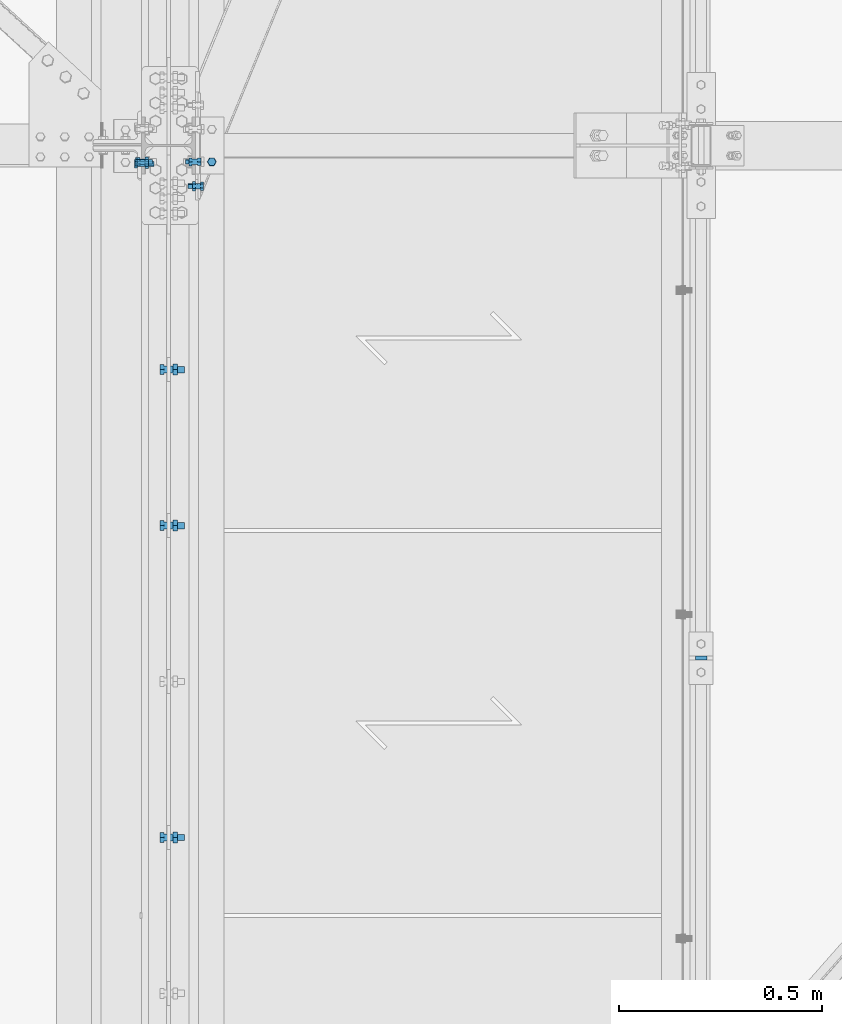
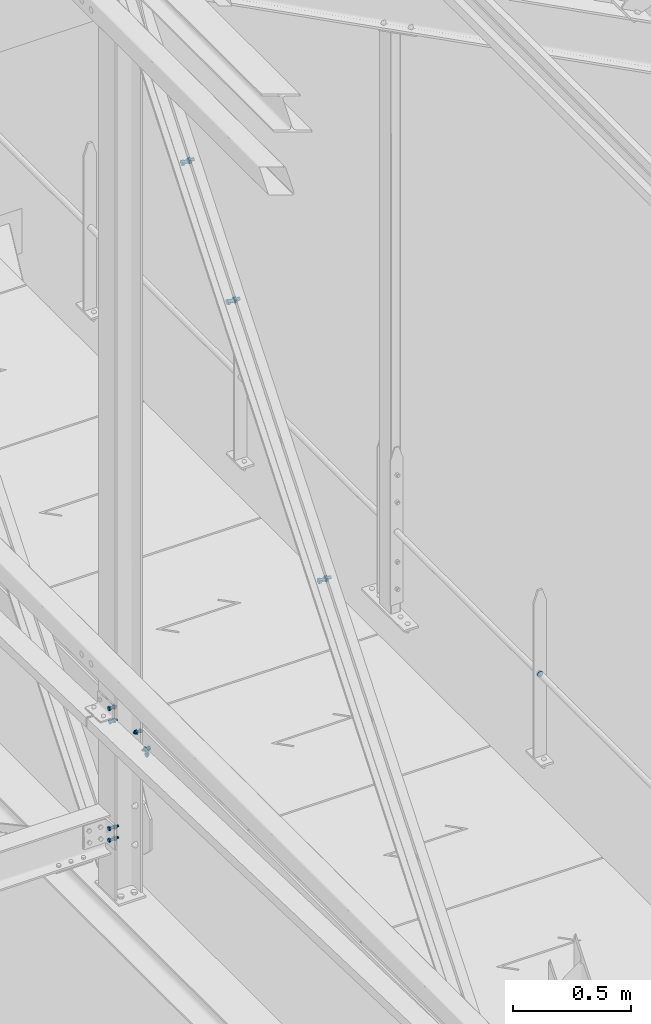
# One storey, part 248 of 362: 11 mechanical fasteners.
"""IFC2X3 building model written with IfcOpenShell, lengths in millimetres."""

import ifcopenshell
import ifcopenshell.guid

model = None  # the IFC model being written
_history = None  # IfcOwnerHistory: only IFC2X3 demands one
_inside = {}  # id of a spatial element -> (the spatial element, [elements in it])
_under = {}  # id of a project, library or spatial element -> (it, [spatial elements below it])
_declared = {}  # id of a project -> (the project, [libraries it declares])
_typed = {}  # id of a type object -> (the type object, [elements of that type])
_made_of = {}  # id of a material, layer set ... -> (it, [elements and type objects made of it])


def new_model(schema):
    """Start an empty IFC model of exactly this schema.

    Asked for "IFC4X3", IfcOpenShell would pick the latest addendum, in which some entities
    have other attributes; the version numbers below select the first issue.
    IFC2X3 requires an IfcOwnerHistory on every rooted entity: one is made here for all.
    """
    global model, _history
    if schema == "IFC4X3":
        model = ifcopenshell.file(schema_version=(4, 3, 0, 0))
    else:
        model = ifcopenshell.file(schema=schema)
    _inside.clear()
    _under.clear()
    _declared.clear()
    _typed.clear()
    _made_of.clear()
    _history = None
    if model.schema == "IFC2X3":
        org = make("IfcOrganization", Name="unknown")
        user = make(
            "IfcPersonAndOrganization",
            ThePerson=make("IfcPerson", FamilyName="unknown"),
            TheOrganization=org,
        )
        app = make(
            "IfcApplication",
            ApplicationDeveloper=org,
            Version="unknown",
            ApplicationFullName="unknown",
            ApplicationIdentifier="unknown",
        )
        _history = make(
            "IfcOwnerHistory",
            OwningUser=user,
            OwningApplication=app,
            ChangeAction="ADDED",
            CreationDate=0,
        )
    return model


def make(cls, **values):
    """One entity of the class cls with the attributes given. An attribute that is None is left unset."""
    return model.create_entity(
        cls, **{name: value for name, value in values.items() if value is not None}
    )


def rooted(cls, **values):
    """An entity with a GlobalId (a new one), such as an element, a storey or a relation."""
    return make(cls, GlobalId=ifcopenshell.guid.new(), OwnerHistory=_history, **values)


def si_unit(unit_type, name, prefix=None):
    """IfcSIUnit, for example si_unit("LENGTHUNIT", "METRE", prefix="MILLI")."""
    return make("IfcSIUnit", UnitType=unit_type, Prefix=prefix, Name=name)


def assignment(units):
    """IfcUnitAssignment: the units of a project."""
    return None if units is None else make("IfcUnitAssignment", Units=units)


def point(xyz):
    """IfcCartesianPoint."""
    return None if xyz is None else make("IfcCartesianPoint", Coordinates=xyz)


def direction(xyz):
    """IfcDirection."""
    return None if xyz is None else make("IfcDirection", DirectionRatios=xyz)


def frame(location, z_axis=None, x_axis=None):
    """IfcAxis2Placement3D, a coordinate frame: its origin and axes. An axis left out is left unset."""
    return make(
        "IfcAxis2Placement3D",
        Location=point(location),
        Axis=direction(z_axis),
        RefDirection=direction(x_axis),
    )


def frame_2d(location, x_axis=None):
    """IfcAxis2Placement2D, a coordinate frame in the plane: its origin and x axis."""
    return make(
        "IfcAxis2Placement2D", Location=point(location), RefDirection=direction(x_axis)
    )


def origin_with_axes():
    """The frame at (0, 0, 0) with the z axis (0, 0, 1) and the x axis (1, 0, 0) written out."""
    return frame((0.0, 0.0, 0.0), z_axis=(0.0, 0.0, 1.0), x_axis=(1.0, 0.0, 0.0))


def origin_2d_with_axis():
    """The frame at (0, 0) in the plane with the x axis (1, 0) written out."""
    return frame_2d((0.0, 0.0), x_axis=(1.0, 0.0))


def place(relative_to, where):
    """IfcLocalPlacement: puts the frame where relative to a parent placement (None: the world)."""
    return make(
        "IfcLocalPlacement", PlacementRelTo=relative_to, RelativePlacement=where
    )


def context(
    kind, dimensions, precision=None, world=None, true_north=None, identifier=None
):
    """IfcGeometricRepresentationContext, for example the 3D "Model" context."""
    return make(
        "IfcGeometricRepresentationContext",
        ContextIdentifier=identifier,
        ContextType=kind,
        CoordinateSpaceDimension=dimensions,
        Precision=precision,
        WorldCoordinateSystem=world,
        TrueNorth=true_north,
    )


def subcontext(parent, identifier, kind, view, scale=None):
    """IfcGeometricRepresentationSubContext, for example "Body" below "Model"."""
    return make(
        "IfcGeometricRepresentationSubContext",
        ContextIdentifier=identifier,
        ContextType=kind,
        ParentContext=parent,
        TargetScale=scale,
        TargetView=view,
    )


def project(units=None, contexts=None):
    """IfcProject with its units and contexts."""
    return rooted(
        "IfcProject",
        Name="project",
        RepresentationContexts=contexts,
        UnitsInContext=assignment(units),
    )


def spatial(cls, under=None, at=None, **own):
    """A site, building, storey or space (cls), placed at a placement, below another one or the project."""
    s = rooted(cls, ObjectPlacement=at, **own)
    if under is not None:
        _under.setdefault(under.id(), (under, []))[1].append(s)
    return s


def polyline(points):
    """IfcPolyline through the points."""
    return make("IfcPolyline", Points=[point(p) for p in points])


def profile(cls, at=None, kind="AREA", **sizes):
    """A parametric profile (cls). Its sizes go by their IFC names, for example OverallWidth=200.0."""
    return make(cls, ProfileType=kind, Position=at, **sizes)


def circle(**sizes):
    """IfcCircleProfileDef."""
    return profile("IfcCircleProfileDef", **sizes)


def outline(outer, holes=None, kind="AREA"):
    """IfcArbitraryClosedProfileDef: a profile drawn as a closed curve; with holes, ...WithVoids."""
    if holes is None:
        return make("IfcArbitraryClosedProfileDef", ProfileType=kind, OuterCurve=outer)
    return make(
        "IfcArbitraryProfileDefWithVoids",
        ProfileType=kind,
        OuterCurve=outer,
        InnerCurves=holes,
    )


def extrude(swept, where, along, depth):
    """IfcExtrudedAreaSolid: the profile swept, set in the frame where, extruded along a direction by depth."""
    return make(
        "IfcExtrudedAreaSolid",
        SweptArea=swept,
        Position=where,
        ExtrudedDirection=direction(along),
        Depth=depth,
    )


def shape(context_of_items, identifier, shape_type, items):
    """IfcShapeRepresentation: the items that make up one representation, for example the "Body"."""
    return make(
        "IfcShapeRepresentation",
        ContextOfItems=context_of_items,
        RepresentationIdentifier=identifier,
        RepresentationType=shape_type,
        Items=items,
    )


def source(mapping_origin, context_of_items, identifier, shape_type, items):
    """IfcRepresentationMap: a shape defined once, which mapped items show again and again."""
    return make(
        "IfcRepresentationMap",
        MappingOrigin=mapping_origin,
        MappedRepresentation=shape(context_of_items, identifier, shape_type, items),
    )


def transform(
    local_origin,
    x_axis=None,
    y_axis=None,
    z_axis=None,
    scale=None,
    scale2=None,
    scale3=None,
    uniform=True,
):
    """IfcCartesianTransformationOperator3D, or its non-uniform kind. x_axis, y_axis, z_axis: its Axis1, 2, 3."""
    if uniform:
        return make(
            "IfcCartesianTransformationOperator3D",
            Axis1=direction(x_axis),
            Axis2=direction(y_axis),
            LocalOrigin=point(local_origin),
            Scale=scale,
            Axis3=direction(z_axis),
        )
    return make(
        "IfcCartesianTransformationOperator3DnonUniform",
        Axis1=direction(x_axis),
        Axis2=direction(y_axis),
        LocalOrigin=point(local_origin),
        Scale=scale,
        Axis3=direction(z_axis),
        Scale2=scale2,
        Scale3=scale3,
    )


def mapped(mapping_source, mapping_target):
    """IfcMappedItem: shows the shape of a source again, moved by a transform."""
    return make(
        "IfcMappedItem", MappingSource=mapping_source, MappingTarget=mapping_target
    )


def material(Name=None, Category=None):
    """IfcMaterial."""
    return make("IfcMaterial", Name=Name, Category=Category)


def made_of(thing, what):
    """Note that an element or type object is made of a material, layer set ...; save() writes the relation."""
    if what is not None:
        _made_of.setdefault(what.id(), (what, []))[1].append(thing)
    return thing


def type_object(cls, material=None, **own):
    """A type object (cls), such as IfcWallType, which elements share."""
    return made_of(rooted(cls, **own), material)


def element(
    cls,
    number,
    at=None,
    inside=None,
    cuts=None,
    type_object=None,
    material=None,
    context=None,
    identifier="Body",
    shape_type=None,
    held_by="IfcProductDefinitionShape",
    body=None,
    shapes=None,
    **own,
):
    """One element of the class cls, such as IfcWall. Its Tag is "e" and its number.

    at: its placement. inside: the storey or other place that contains it. cuts: it is an
    opening in that element (IfcRelVoidsElement). A single representation is given by context,
    identifier, shape_type and body (its items); several are given by shapes. held_by: the class
    of the entity that holds the representations. save() writes the other relations.
    """
    e = rooted(cls, Tag="e%d" % number, ObjectPlacement=at, **own)
    if body is not None:
        shapes = [shape(context, identifier, shape_type, body)]
    if shapes is not None:
        e.Representation = make(held_by, Representations=shapes)
    if inside is not None:
        _inside.setdefault(inside.id(), (inside, []))[1].append(e)
    if cuts is not None:
        rooted(
            "IfcRelVoidsElement", RelatingBuildingElement=cuts, RelatedOpeningElement=e
        )
    if type_object is not None:
        _typed.setdefault(type_object.id(), (type_object, []))[1].append(e)
    return made_of(e, material)


def aggregate(whole, parts):
    """IfcRelAggregates: a whole, such as a stair, and the parts it consists of."""
    return rooted("IfcRelAggregates", RelatingObject=whole, RelatedObjects=parts)


def save(model, path):
    """Write the relations noted so far, then the file.

    IfcRelAggregates (storeys below a building ...), IfcRelContainedInSpatialStructure (elements
    in a storey), IfcRelDefinesByType, IfcRelAssociatesMaterial and IfcRelDeclares: one each for
    every whole, place, type object, material and project.
    """
    for whole, parts in _under.values():
        aggregate(whole, parts)
    for where, things in _inside.values():
        rooted(
            "IfcRelContainedInSpatialStructure",
            RelatedElements=things,
            RelatingStructure=where,
        )
    for kind, things in _typed.values():
        rooted("IfcRelDefinesByType", RelatedObjects=things, RelatingType=kind)
    for what, things in _made_of.values():
        rooted("IfcRelAssociatesMaterial", RelatedObjects=things, RelatingMaterial=what)
    for by, libraries in _declared.values():
        rooted("IfcRelDeclares", RelatingContext=by, RelatedDefinitions=libraries)
    model.write(path)


model = new_model("IFC2X3")

# Units and contexts
model_context = context("Model", 3, precision=1e-05, world=origin_with_axes())
body_context = subcontext(model_context, "Body", "Model", "MODEL_VIEW")
ifc_project = project(units=[si_unit("LENGTHUNIT", "METRE", prefix="MILLI"), si_unit("AREAUNIT", "SQUARE_METRE"), si_unit("VOLUMEUNIT", "CUBIC_METRE"), si_unit("MASSUNIT", "GRAM", prefix="KILO"), si_unit("TIMEUNIT", "SECOND"), si_unit("PLANEANGLEUNIT", "RADIAN"), si_unit("SOLIDANGLEUNIT", "STERADIAN"), si_unit("THERMODYNAMICTEMPERATUREUNIT", "DEGREE_CELSIUS"), si_unit("LUMINOUSINTENSITYUNIT", "LUMEN")], contexts=[model_context])

# Site, building, storey
site_placement = place(None, origin_with_axes())
site = spatial("IfcSite", under=ifc_project, at=site_placement, Name="Undefined", CompositionType="ELEMENT")
building_placement = place(site_placement, origin_with_axes())
building = spatial("IfcBuilding", under=site, at=building_placement, Name="Undefined", CompositionType="ELEMENT")
storey_placement = place(building_placement, origin_with_axes())
storey = spatial("IfcBuildingStorey", under=building, at=storey_placement, Name="Undefined", CompositionType="ELEMENT", Elevation=0.0)

# Mechanical fasteners
ifc_material_1 = material(Name="8.8-SB-ZINGUE")
mechanical_fastener_type = type_object("IfcMechanicalFastenerType", Name="Bolt assembly")
shared_shape_1 = source(origin_with_axes(), body_context, "Body", "SweptSolid", [
    extrude(circle(Radius=9.0, at=origin_2d_with_axis()), frame((0.0, -10.9000000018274, 0.0), z_axis=(0.0, 1.0, 0.0), x_axis=(1.0, 0.0, 0.0)), (0.0, 0.0, 1.0), 6.0),
    extrude(circle(Radius=9.0, at=origin_2d_with_axis()), frame((0.0, 4.9000000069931, 0.0), z_axis=(0.0, 1.0, 0.0), x_axis=(1.0, 0.0, 0.0)), (0.0, 0.0, 1.0), 6.1),
    extrude(circle(Radius=9.0, at=origin_2d_with_axis()), frame((0.0, -3.99999923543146, 0.0), z_axis=(0.0, 1.0, 0.0), x_axis=(1.0, 0.0, 0.0)), (0.0, 0.0, 1.0), 8.0),
    extrude(outline(polyline([(13.85640646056, 0.0), (6.92820323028, 12.0000000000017), (-6.92820323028, 12.0000000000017), (-13.85640646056, 0.0), (-6.92820323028, -12.0000000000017), (6.92820323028, -12.0000000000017), (13.85640646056, 0.0)])), frame((0.0, -21.5600000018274, 0.0), z_axis=(0.0, 1.0, 0.0), x_axis=(1.0, 0.0, 0.0)), (0.0, 0.0, 1.0), 10.56),
    extrude(circle(Radius=8.0, at=origin_2d_with_axis()), frame((0.0, -11.0000000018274, 0.0), z_axis=(0.0, 1.0, 0.0), x_axis=(1.0, 0.0, 0.0)), (0.0, 0.0, 1.0), 50.0),
    extrude(outline(polyline([(15.3344231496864, 0.0), (7.6672115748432, 13.2800000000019), (-7.6672115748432, 13.2800000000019), (-15.3344231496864, 0.0), (-7.6672115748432, -13.2800000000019), (7.6672115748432, -13.2800000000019), (15.3344231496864, 0.0)])), frame((0.0, 11.0000000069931, 0.0), z_axis=(0.0, 1.0, 0.0), x_axis=(1.0, 0.0, 0.0)), (0.0, 0.0, 1.0), 10.56),
])
for number, where, z_axis, x_axis, name in (
    (1, (12680.0, 10847.2128972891, 11340.6337206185), (0.0, 1.0, 0.0), (0.0, 0.0, 1.0), "Bolt assembly"),
    (2, (12680.0, 10462.2949268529, 10855.7383716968), (0.0, 1.0, 0.0), (0.0, 0.0, 1.0), "Bolt assembly"),
    (3, (12680.0, 9692.45898598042, 9885.9476738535), (0.0, 1.0, 0.0), (0.0, 0.0, 1.0), "Bolt assembly"),
):
    element("IfcMechanicalFastener", number, at=place(storey_placement, frame(where, z_axis=z_axis, x_axis=x_axis)), inside=storey, type_object=mechanical_fastener_type, material=ifc_material_1, Name=name, NominalDiameter=16.0, NominalLength=50.0, context=body_context, shape_type="MappedRepresentation", body=[
        mapped(shared_shape_1, transform((0.0, 0.0, 0.0))),
    ])
ifc_material_2 = material(Name="6.8")
shared_shape_2 = source(origin_with_axes(), body_context, "Body", "SweptSolid", [
    extrude(circle(Radius=14.0, at=origin_2d_with_axis()), frame((0.0, -5.00000000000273, 0.0), z_axis=(0.0, 1.0, 0.0), x_axis=(1.0, 0.0, 0.0)), (0.0, 0.0, 1.0), 10.1),
])
mechanical_fastener_1_placement = place(storey_placement, frame((13993.999890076, 10135.0034477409, 8673.80000023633), z_axis=(0.0, 0.0, 1.0), x_axis=(-1.0, 0.0, 0.0)))
element("IfcMechanicalFastener", 4, at=mechanical_fastener_1_placement, inside=storey, type_object=mechanical_fastener_type, material=ifc_material_2, Name="Bolt assembly", NominalDiameter=27.0, NominalLength=10.0, context=body_context, shape_type="MappedRepresentation", body=[
    mapped(shared_shape_2, transform((0.0, 0.0, 0.0))),
])
shared_shape_3 = source(origin_with_axes(), body_context, "Body", "SweptSolid", [
    extrude(circle(Radius=7.0, at=origin_2d_with_axis()), frame((0.0, -4.90000000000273, 0.0), z_axis=(0.0, 1.0, 0.0), x_axis=(1.0, 0.0, 0.0)), (0.0, 0.0, 1.0), 5.0),
    extrude(circle(Radius=7.0, at=origin_2d_with_axis()), frame((0.0, -0.100011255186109, 0.0), z_axis=(0.0, 1.0, 0.0), x_axis=(1.0, 0.0, 0.0)), (0.0, 0.0, 1.0), 7.1),
    extrude(outline(polyline([(10.39230484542, 0.0), (5.19615242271, 9.00000000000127), (-5.19615242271, 9.00000000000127), (-10.39230484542, 0.0), (-5.19615242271, -9.00000000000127), (5.19615242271, -9.00000000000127), (10.39230484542, 0.0)])), frame((0.0, -12.9200004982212, 0.0), z_axis=(0.0, 1.0, 0.0), x_axis=(1.0, 0.0, 0.0)), (0.0, 0.0, 1.0), 7.92),
    extrude(circle(Radius=6.0, at=origin_2d_with_axis()), frame((0.0, -5.00000000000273, 0.0), z_axis=(0.0, 1.0, 0.0), x_axis=(1.0, 0.0, 0.0)), (0.0, 0.0, 1.0), 30.0),
    extrude(outline(polyline([(11.5008173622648, 0.0), (5.7504086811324, 9.96000000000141), (-5.7504086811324, 9.96000000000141), (-11.5008173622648, 0.0), (-5.7504086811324, -9.96000000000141), (5.7504086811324, -9.96000000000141), (11.5008173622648, 0.0)])), frame((0.0, 7.0, 0.0), z_axis=(0.0, 1.0, 0.0), x_axis=(1.0, 0.0, 0.0)), (0.0, 0.0, 1.0), 7.92),
])
mechanical_fastener_2_placement = place(storey_placement, frame((12786.5082291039, 11359.9999999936, 7950.00000000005), z_axis=(0.0, -1.0, 0.0), x_axis=(-1.0, 0.0, 0.0)))
element("IfcMechanicalFastener", 5, at=mechanical_fastener_2_placement, inside=storey, type_object=mechanical_fastener_type, material=ifc_material_1, Name="Bolt assembly", NominalDiameter=12.0, NominalLength=30.0, context=body_context, shape_type="MappedRepresentation", body=[
    mapped(shared_shape_3, transform((0.0, 0.0, 0.0))),
])
shared_shape_4 = source(origin_with_axes(), body_context, "Body", "SweptSolid", [
    extrude(circle(Radius=7.0, at=origin_2d_with_axis()), frame((0.0, -0.100011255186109, 0.0), z_axis=(0.0, 1.0, 0.0), x_axis=(1.0, 0.0, 0.0)), (0.0, 0.0, 1.0), 8.6),
    extrude(circle(Radius=7.0, at=origin_2d_with_axis()), frame((0.0, -6.9, 0.0), z_axis=(0.0, 1.0, 0.0), x_axis=(1.0, 0.0, 0.0)), (0.0, 0.0, 1.0), 7.0),
    extrude(outline(polyline([(10.39230484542, 0.0), (5.19615242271, 9.00000000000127), (-5.19615242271, 9.00000000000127), (-10.39230484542, 0.0), (-5.19615242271, -9.00000000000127), (5.19615242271, -9.00000000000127), (10.39230484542, 0.0)])), frame((0.0, -14.92, 0.0), z_axis=(0.0, 1.0, 0.0), x_axis=(1.0, 0.0, 0.0)), (0.0, 0.0, 1.0), 7.92),
    extrude(circle(Radius=6.0, at=origin_2d_with_axis()), frame((0.0, -7.0, 0.0), z_axis=(0.0, 1.0, 0.0), x_axis=(1.0, 0.0, 0.0)), (0.0, 0.0, 1.0), 30.0),
    extrude(outline(polyline([(11.5008173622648, 0.0), (5.7504086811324, 9.96000000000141), (-5.7504086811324, 9.96000000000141), (-11.5008173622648, 0.0), (-5.7504086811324, -9.96000000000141), (5.7504086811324, -9.96000000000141), (11.5008173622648, 0.0)])), frame((0.0, 8.49999994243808, 0.0), z_axis=(0.0, 1.0, 0.0), x_axis=(1.0, 0.0, 0.0)), (0.0, 0.0, 1.0), 7.92),
])
mechanical_fastener_3_placement = place(storey_placement, frame((12613.5000000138, 11359.999998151, 8238.27799323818), z_axis=(0.0, 0.0, 1.0), x_axis=(0.0, -1.0, 0.0)))
element("IfcMechanicalFastener", 6, at=mechanical_fastener_3_placement, inside=storey, type_object=mechanical_fastener_type, material=ifc_material_1, Name="Bolt assembly", NominalDiameter=12.0, NominalLength=30.0, context=body_context, shape_type="MappedRepresentation", body=[
    mapped(shared_shape_4, transform((0.0, 0.0, 0.0))),
])
shared_shape_5 = source(origin_with_axes(), body_context, "Body", "SweptSolid", [
    extrude(circle(Radius=7.0, at=origin_2d_with_axis()), frame((0.0, -0.108038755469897, 0.0), z_axis=(0.0, 1.0, 0.0), x_axis=(1.0, 0.0, 0.0)), (0.0, 0.0, 1.0), 5.1),
    extrude(circle(Radius=7.0, at=origin_2d_with_axis()), frame((0.0, -6.4, 0.0), z_axis=(0.0, 1.0, 0.0), x_axis=(1.0, 0.0, 0.0)), (0.0, 0.0, 1.0), 6.0),
    extrude(outline(polyline([(10.39230484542, 0.0), (5.19615242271, 9.00000000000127), (-5.19615242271, 9.00000000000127), (-10.39230484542, 0.0), (-5.19615242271, -9.00000000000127), (5.19615242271, -9.00000000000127), (10.39230484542, 0.0)])), frame((0.0, -14.42, 0.0), z_axis=(0.0, 1.0, 0.0), x_axis=(1.0, 0.0, 0.0)), (0.0, 0.0, 1.0), 7.92),
    extrude(circle(Radius=6.0, at=origin_2d_with_axis()), frame((0.0, -6.5, 0.0), z_axis=(0.0, 1.0, 0.0), x_axis=(1.0, 0.0, 0.0)), (0.0, 0.0, 1.0), 30.0),
    extrude(outline(polyline([(11.5008173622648, 0.0), (5.7504086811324, 9.96000000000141), (-5.7504086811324, 9.96000000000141), (-11.5008173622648, 0.0), (-5.7504086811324, -9.96000000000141), (5.7504086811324, -9.96000000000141), (11.5008173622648, 0.0)])), frame((0.0, 4.99194106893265, 0.0), z_axis=(0.0, 1.0, 0.0), x_axis=(1.0, 0.0, 0.0)), (0.0, 0.0, 1.0), 7.92),
])
mechanical_fastener_4_placement = place(storey_placement, frame((12751.5001144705, 11299.9999999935, 8015.00000000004), z_axis=(0.0, 0.0, 1.0), x_axis=(0.0, 1.0, 0.0)))
element("IfcMechanicalFastener", 7, at=mechanical_fastener_4_placement, inside=storey, type_object=mechanical_fastener_type, material=ifc_material_1, Name="Bolt assembly", NominalDiameter=12.0, NominalLength=30.0, context=body_context, shape_type="MappedRepresentation", body=[
    mapped(shared_shape_5, transform((0.0, 0.0, 0.0))),
])
shared_shape_6 = source(origin_with_axes(), body_context, "Body", "SweptSolid", [
    extrude(circle(Radius=7.0, at=origin_2d_with_axis()), frame((0.0, -0.0917710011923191, 0.0), z_axis=(0.0, 1.0, 0.0), x_axis=(1.0, 0.0, 0.0)), (0.0, 0.0, 1.0), 8.6),
    extrude(circle(Radius=7.0, at=origin_2d_with_axis()), frame((0.0, -4.89994333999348, 0.0), z_axis=(0.0, 1.0, 0.0), x_axis=(1.0, 0.0, 0.0)), (0.0, 0.0, 1.0), 5.0),
    extrude(outline(polyline([(10.39230484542, 0.0), (5.19615242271, 9.00000000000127), (-5.19615242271, 9.00000000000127), (-10.39230484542, 0.0), (-5.19615242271, -9.00000000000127), (5.19615242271, -9.00000000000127), (10.39230484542, 0.0)])), frame((0.0, -12.9199433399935, 0.0), z_axis=(0.0, 1.0, 0.0), x_axis=(1.0, 0.0, 0.0)), (0.0, 0.0, 1.0), 7.92),
    extrude(circle(Radius=6.0, at=origin_2d_with_axis()), frame((0.0, -4.99994333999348, 0.0), z_axis=(0.0, 1.0, 0.0), x_axis=(1.0, 0.0, 0.0)), (0.0, 0.0, 1.0), 30.0),
    extrude(outline(polyline([(11.5008173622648, 0.0), (5.7504086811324, 9.96000000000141), (-5.7504086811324, 9.96000000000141), (-11.5008173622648, 0.0), (-5.7504086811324, -9.96000000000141), (5.7504086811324, -9.96000000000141), (11.5008173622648, 0.0)])), frame((0.0, 8.50822899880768, 0.0), z_axis=(0.0, 1.0, 0.0), x_axis=(1.0, 0.0, 0.0)), (0.0, 0.0, 1.0), 7.92),
])
mechanical_fastener_5_placement = place(storey_placement, frame((12746.5082291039, 11360.0000009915, 8070.00000000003), z_axis=(0.0, 1.0, 0.0), x_axis=(0.0, 0.0, -1.0)))
element("IfcMechanicalFastener", 8, at=mechanical_fastener_5_placement, inside=storey, type_object=mechanical_fastener_type, material=ifc_material_1, Name="Bolt assembly", NominalDiameter=12.0, NominalLength=30.0, context=body_context, shape_type="MappedRepresentation", body=[
    mapped(shared_shape_6, transform((0.0, 0.0, 0.0))),
])
shared_shape_7 = source(origin_with_axes(), body_context, "Body", "SweptSolid", [
    extrude(circle(Radius=7.0, at=origin_2d_with_axis()), frame((0.0, -0.100011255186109, 0.0), z_axis=(0.0, 1.0, 0.0), x_axis=(1.0, 0.0, 0.0)), (0.0, 0.0, 1.0), 8.6),
    extrude(circle(Radius=7.0, at=origin_2d_with_axis()), frame((0.0, -3.89999843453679, 0.0), z_axis=(0.0, 1.0, 0.0), x_axis=(1.0, 0.0, 0.0)), (0.0, 0.0, 1.0), 4.0),
    extrude(outline(polyline([(10.39230484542, 0.0), (5.19615242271, 9.00000000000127), (-5.19615242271, 9.00000000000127), (-10.39230484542, 0.0), (-5.19615242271, -9.00000000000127), (5.19615242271, -9.00000000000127), (10.39230484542, 0.0)])), frame((0.0, -11.9199984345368, 0.0), z_axis=(0.0, 1.0, 0.0), x_axis=(1.0, 0.0, 0.0)), (0.0, 0.0, 1.0), 7.92),
    extrude(circle(Radius=6.0, at=origin_2d_with_axis()), frame((0.0, -3.99999923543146, 0.0), z_axis=(0.0, 1.0, 0.0), x_axis=(1.0, 0.0, 0.0)), (0.0, 0.0, 1.0), 30.0),
    extrude(outline(polyline([(11.5008173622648, 0.0), (5.7504086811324, 9.96000000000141), (-5.7504086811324, 9.96000000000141), (-11.5008173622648, 0.0), (-5.7504086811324, -9.96000000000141), (5.7504086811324, -9.96000000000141), (11.5008173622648, 0.0)])), frame((0.0, 8.49999994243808, 0.0), z_axis=(0.0, 1.0, 0.0), x_axis=(1.0, 0.0, 0.0)), (0.0, 0.0, 1.0), 7.92),
])
mechanical_fastener_6_placement = place(storey_placement, frame((12613.5000000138, 11359.999998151, 8168.24342924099), z_axis=(0.0, 0.0, 1.0), x_axis=(0.0, -1.0, 0.0)))
element("IfcMechanicalFastener", 9, at=mechanical_fastener_6_placement, inside=storey, type_object=mechanical_fastener_type, material=ifc_material_1, Name="Bolt assembly", NominalDiameter=12.0, NominalLength=30.0, context=body_context, shape_type="MappedRepresentation", body=[
    mapped(shared_shape_7, transform((0.0, 0.0, 0.0))),
])
shared_shape_8 = source(origin_with_axes(), body_context, "Body", "SweptSolid", [
    extrude(circle(Radius=7.0, at=origin_2d_with_axis()), frame((0.0, -0.100011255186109, 0.0), z_axis=(0.0, 1.0, 0.0), x_axis=(1.0, 0.0, 0.0)), (0.0, 0.0, 1.0), 8.6),
    extrude(circle(Radius=7.0, at=origin_2d_with_axis()), frame((0.0, -9.9, 0.0), z_axis=(0.0, 1.0, 0.0), x_axis=(1.0, 0.0, 0.0)), (0.0, 0.0, 1.0), 10.0),
    extrude(outline(polyline([(10.39230484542, 0.0), (5.19615242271, 9.00000000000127), (-5.19615242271, 9.00000000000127), (-10.39230484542, 0.0), (-5.19615242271, -9.00000000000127), (5.19615242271, -9.00000000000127), (10.39230484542, 0.0)])), frame((0.0, -17.92, 0.0), z_axis=(0.0, 1.0, 0.0), x_axis=(1.0, 0.0, 0.0)), (0.0, 0.0, 1.0), 7.92),
    extrude(circle(Radius=6.0, at=origin_2d_with_axis()), frame((0.0, -10.0000010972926, 0.0), z_axis=(0.0, 1.0, 0.0), x_axis=(1.0, 0.0, 0.0)), (0.0, 0.0, 1.0), 40.0),
    extrude(outline(polyline([(11.5008173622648, 0.0), (5.7504086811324, 9.96000000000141), (-5.7504086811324, 9.96000000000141), (-11.5008173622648, 0.0), (-5.7504086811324, -9.96000000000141), (5.7504086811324, -9.96000000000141), (11.5008173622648, 0.0)])), frame((0.0, 8.49999994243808, 0.0), z_axis=(0.0, 1.0, 0.0), x_axis=(1.0, 0.0, 0.0)), (0.0, 0.0, 1.0), 7.92),
])
for number, where, z_axis, x_axis, name in (
    (10, (12613.5000013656, 11354.9999999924, 7563.08877679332), (0.0, 0.0, 1.0), (0.0, -1.0, 0.0), "Bolt assembly"),
    (11, (12613.5000013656, 11354.9999999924, 7623.11839865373), (0.0, 0.0, 1.0), (0.0, -1.0, 0.0), "Bolt assembly"),
):
    element("IfcMechanicalFastener", number, at=place(storey_placement, frame(where, z_axis=z_axis, x_axis=x_axis)), inside=storey, type_object=mechanical_fastener_type, material=ifc_material_1, Name=name, NominalDiameter=12.0, NominalLength=40.0, context=body_context, shape_type="MappedRepresentation", body=[
        mapped(shared_shape_8, transform((0.0, 0.0, 0.0))),
    ])

save(model, "model.ifc")
